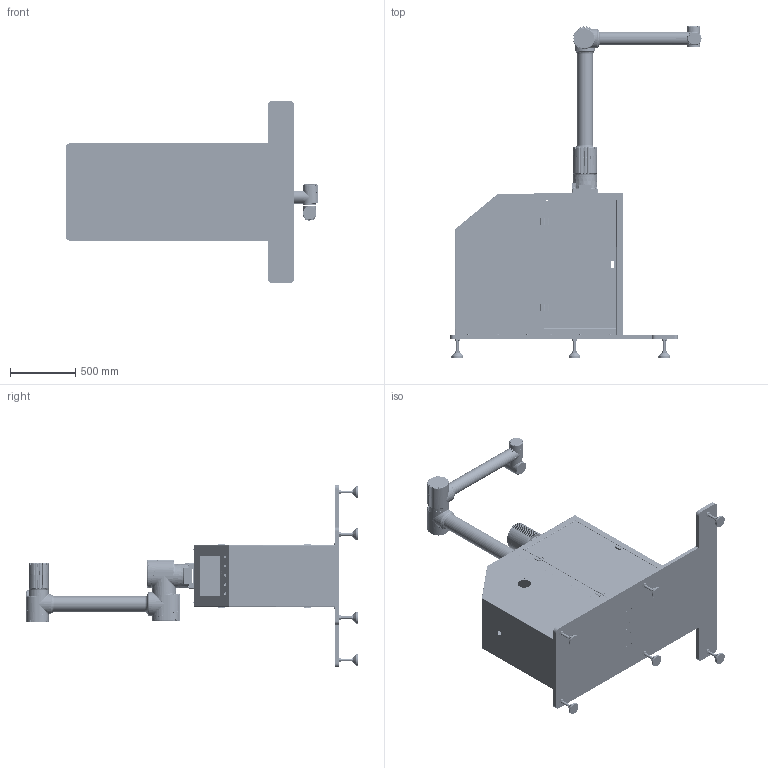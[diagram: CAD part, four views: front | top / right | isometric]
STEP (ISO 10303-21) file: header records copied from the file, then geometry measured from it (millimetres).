
FILE_DESCRIPTION(/* description */ (''),/* implementation_level */ '2;1');
FILE_NAME(/* name */ 'M530模型图-带电柜底板-2025-5-29.stp',/* time_stamp */ '2025-05-29T11:46:40+08:00',/* author */ (''),/* organization */ (''),/* preprocessor_version */ 'ST-DEVELOPER v16.7',/* originating_system */ 'SIEMENS PLM Software NX 12.0',/* authorisation */ '');
FILE_SCHEMA (('AUTOMOTIVE_DESIGN { 1 0 10303 214 3 1 1 1 }'));
Products named in the file (1): AdmiB2288C5Bytx8
Bounding box: 1933.52 x 2549.2 x 1400 mm (x, y, z)
Volume: 141297518.8 mm3; surface area: 19495952.6 mm2
Topology: 91 solids, 129 shells, 18017 faces, 47232 edges, 30114 vertices
Faces by surface type: plane 10503, cylinder 3498, extrusion 1774, bspline 1037, cone 561, torus 519, sphere 101, revolution 24
Full cylindrical faces by diameter (mm): 0.6 x5, 1 x12, 1.6 x5, 2 x2, 2.013 x2, 2.2 x2, 2.5 x4, 2.6 x17, 3.3 x28, 3.5 x20, 4 x53, 4.2 x13, 4.5 x46, 5 x82, 5.2 x12, 5.5 x8, 5.7 x4, 5.8 x1, 6 x149, 6.2 x1, 6.4 x4, 6.5 x108, 6.6 x12, 6.8 x13, 6.9 x6, 7 x72, 7.7 x2, 8 x37, 8.4 x1, 8.5 x9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
Entity records: 1099768 total; most frequent: CARTESIAN_POINT 614462, ORIENTED_EDGE 88964, DIRECTION 73675, EDGE_CURVE 44482, VERTEX_POINT 29196, VECTOR 25065, AXIS2_PLACEMENT_3D 24293, LINE 23291
